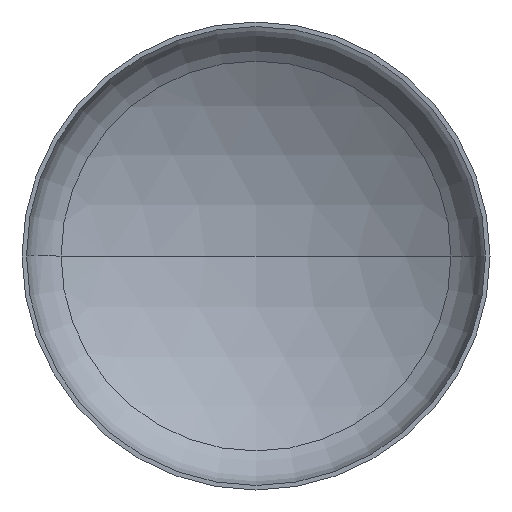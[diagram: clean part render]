
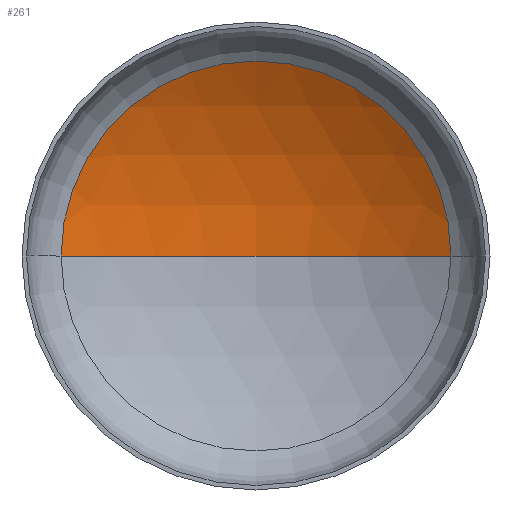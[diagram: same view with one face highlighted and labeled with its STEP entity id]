
A CAD part, front view. The second image highlights one B-rep face of the part: STEP entity #261.
In plain terms, the highlighted spherical face has radius 6000 mm.
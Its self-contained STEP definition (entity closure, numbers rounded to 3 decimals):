
#16 = AXIS2_PLACEMENT_3D ( 'NONE', #112, #375, #368 ) ;
#19 = CARTESIAN_POINT ( 'NONE',  ( 3124.458, 1106.039, 0. ) ) ;
#39 = AXIS2_PLACEMENT_3D ( 'NONE', #282, #281, #278 ) ;
#45 = AXIS2_PLACEMENT_3D ( 'NONE', #277, #274, #114 ) ;
#46 = AXIS2_PLACEMENT_3D ( 'NONE', #283, #296, #288 ) ;
#58 = EDGE_LOOP ( 'NONE', ( #299, #238, #381 ) ) ;
#84 = EDGE_CURVE ( 'NONE', #227, #108, #187, .T. ) ;
#85 = EDGE_CURVE ( 'NONE', #216, #227, #257, .T. ) ;
#88 = EDGE_CURVE ( 'NONE', #216, #108, #396, .T. ) ;
#108 = VERTEX_POINT ( 'NONE', #116 ) ;
#109 = CARTESIAN_POINT ( 'NONE',  ( 0., 1983.758, 0. ) ) ;
#112 = CARTESIAN_POINT ( 'NONE',  ( 0., -4016.242, 0. ) ) ;
#114 = DIRECTION ( 'NONE',  ( -1., 0., 0. ) ) ;
#116 = CARTESIAN_POINT ( 'NONE',  ( -3124.458, 1106.039, 0. ) ) ;
#176 = FACE_OUTER_BOUND ( 'NONE', #58, .T. ) ;
#187 = CIRCLE ( 'NONE', #46, 3124.458 ) ;
#216 = VERTEX_POINT ( 'NONE', #109 ) ;
#227 = VERTEX_POINT ( 'NONE', #19 ) ;
#238 = ORIENTED_EDGE ( 'NONE', *, *, #85, .T. ) ;
#257 = CIRCLE ( 'NONE', #45, 6000. ) ;
#261 = ADVANCED_FACE ( 'NONE', ( #176 ), #290, .F. ) ;
#274 = DIRECTION ( 'NONE',  ( 0., 0., -1. ) ) ;
#277 = CARTESIAN_POINT ( 'NONE',  ( 0., -4016.242, 0. ) ) ;
#278 = DIRECTION ( 'NONE',  ( 1., 0., 0. ) ) ;
#281 = DIRECTION ( 'NONE',  ( 0., 0., 1. ) ) ;
#282 = CARTESIAN_POINT ( 'NONE',  ( 0., -4016.242, 0. ) ) ;
#283 = CARTESIAN_POINT ( 'NONE',  ( 0., 1106.039, 0. ) ) ;
#288 = DIRECTION ( 'NONE',  ( 1., 0., 0. ) ) ;
#290 = SPHERICAL_SURFACE ( 'NONE', #16, 6000. ) ;
#296 = DIRECTION ( 'NONE',  ( 0., -1., 0. ) ) ;
#299 = ORIENTED_EDGE ( 'NONE', *, *, #88, .F. ) ;
#368 = DIRECTION ( 'NONE',  ( -1., 0., 0. ) ) ;
#375 = DIRECTION ( 'NONE',  ( 0., 0., -1. ) ) ;
#381 = ORIENTED_EDGE ( 'NONE', *, *, #84, .T. ) ;
#396 = CIRCLE ( 'NONE', #39, 6000. ) ;
